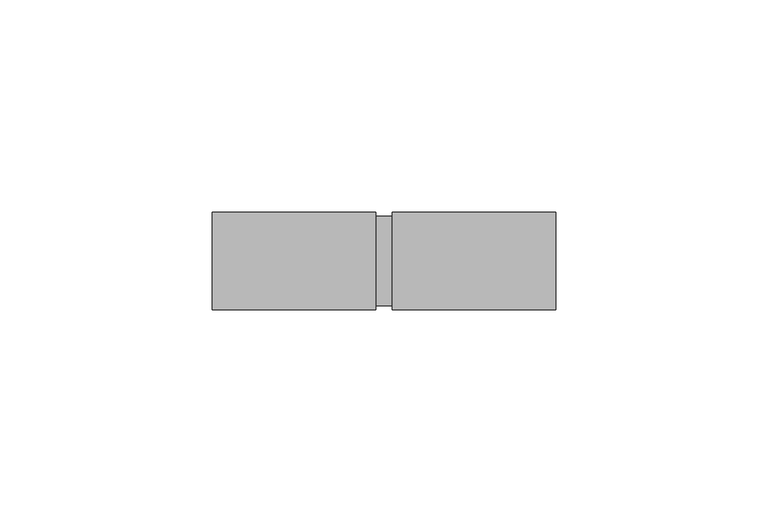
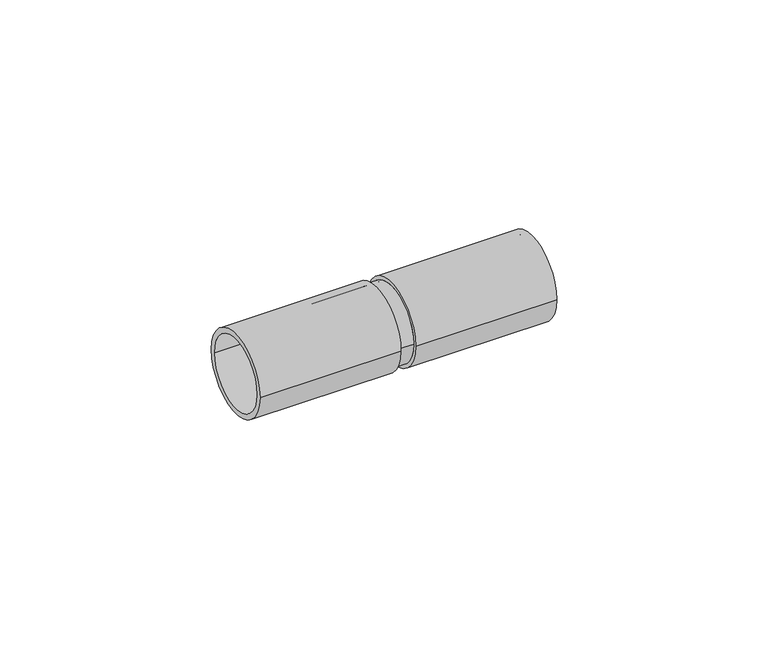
"""IFC4 building model written with IfcOpenShell, lengths in millimetres: cable carrier fitting geometry."""

from ifc_helpers import new_model, si_unit, frame, origin, place, context, project, spatial, polyline, circle_curve, source, transform, mapped, element, save
from ifc_brep_helpers import plane_surface, cylinder_surface, revolved_surface, advanced_brep


def cable_carrier_fitting_e20c0bde(model_context):
    return source(origin(), model_context, "Body", "AdvancedBrep", [
        advanced_brep(
        [(-40.5, -11.5, 0.0), (-40.5, 11.5, 0.0), (-40.5, -10.0, 0.0), (-40.5, 10.0, 0.0), (-2.0, -11.5, 0.0), (-2.0, 11.5, 0.0), (-2.0, -10.5, 0.0), (-2.0, 10.5, 0.0), (-2.0, 10.0, 0.0), (-2.0, -10.0, 0.0), (2.0, -10.0, 0.0), (2.0, 10.0, 0.0), (2.0, -10.5, 0.0), (2.0, 10.5, 0.0), (2.0, -11.5, 0.0), (2.0, 11.5, 0.0), (40.5, -11.5, 0.0), (40.5, 11.5, 0.0), (40.5, -10.0, 0.0), (40.5, 10.0, 0.0)],
        [
            (0, 1, circle_curve(frame((-40.5, 0.0, 0.0), z_axis=(-1.0, 0.0, 0.0), x_axis=(0.0, 1.0, 0.0)), 11.5)),
            (1, 0, circle_curve(frame((-40.5, 0.0, 0.0), z_axis=(-1.0, 0.0, 0.0), x_axis=(0.0, 1.0, 0.0)), 11.5)),
            (2, 3, circle_curve(frame((-40.5, 0.0, 0.0), z_axis=(1.0, 0.0, 0.0), x_axis=(0.0, 1.0, 0.0)), 10.0)),
            (3, 2, circle_curve(frame((-40.5, 0.0, 0.0), z_axis=(1.0, 0.0, 0.0), x_axis=(0.0, 1.0, 0.0)), 10.0)),
            (4, 5, circle_curve(frame((-2.0, 0.0, 0.0), z_axis=(1.0, 0.0, 0.0), x_axis=(0.0, 1.0, 0.0)), 11.5)),
            (5, 4, circle_curve(frame((-2.0, 0.0, 0.0), z_axis=(1.0, 0.0, 0.0), x_axis=(0.0, 1.0, 0.0)), 11.5)),
            (6, 7, circle_curve(frame((-2.0, 0.0, 0.0), z_axis=(-1.0, 0.0, 0.0), x_axis=(0.0, 1.0, 0.0)), 10.5)),
            (7, 6, circle_curve(frame((-2.0, 0.0, 0.0), z_axis=(-1.0, 0.0, 0.0), x_axis=(0.0, 1.0, 0.0)), 10.5)),
            (3, 8),
            (8, 9, circle_curve(frame((-2.0, 0.0, 0.0), z_axis=(1.0, 0.0, 0.0), x_axis=(0.0, 1.0, 0.0)), 10.0)),
            (9, 2),
            (9, 8, circle_curve(frame((-2.0, 0.0, 0.0), z_axis=(1.0, 0.0, 0.0), x_axis=(0.0, 1.0, 0.0)), 10.0)),
            (1, 5),
            (4, 0),
            (9, 10),
            (10, 11, circle_curve(frame((2.0, 0.0, 0.0), z_axis=(1.0, 0.0, 0.0), x_axis=(0.0, 1.0, 0.0)), 10.0)),
            (11, 8),
            (11, 10, circle_curve(frame((2.0, 0.0, 0.0), z_axis=(1.0, 0.0, 0.0), x_axis=(0.0, 1.0, 0.0)), 10.0)),
            (6, 12),
            (12, 13, circle_curve(frame((2.0, 0.0, 0.0), z_axis=(-1.0, 0.0, 0.0), x_axis=(0.0, 1.0, 0.0)), 10.5)),
            (13, 7),
            (13, 12, circle_curve(frame((2.0, 0.0, 0.0), z_axis=(-1.0, 0.0, 0.0), x_axis=(0.0, 1.0, 0.0)), 10.5)),
            (14, 15, circle_curve(frame((2.0, 0.0, 0.0), z_axis=(-1.0, 0.0, 0.0), x_axis=(0.0, 1.0, 0.0)), 11.5)),
            (15, 14, circle_curve(frame((2.0, 0.0, 0.0), z_axis=(-1.0, 0.0, 0.0), x_axis=(0.0, 1.0, 0.0)), 11.5)),
            (16, 17, circle_curve(frame((40.5, 0.0, 0.0), z_axis=(1.0, 0.0, 0.0), x_axis=(0.0, 1.0, 0.0)), 11.5)),
            (17, 16, circle_curve(frame((40.5, 0.0, 0.0), z_axis=(1.0, 0.0, 0.0), x_axis=(0.0, 1.0, 0.0)), 11.5)),
            (18, 19, circle_curve(frame((40.5, 0.0, 0.0), z_axis=(-1.0, 0.0, 0.0), x_axis=(0.0, 1.0, 0.0)), 10.0)),
            (19, 18, circle_curve(frame((40.5, 0.0, 0.0), z_axis=(-1.0, 0.0, 0.0), x_axis=(0.0, 1.0, 0.0)), 10.0)),
            (14, 16),
            (17, 15),
            (19, 11),
            (10, 18),
        ],
        [
            plane_surface(frame((-40.5, 0.0, 0.0), z_axis=(-1.0, 0.0, 0.0), x_axis=(0.0, 0.0, 1.0))),
            plane_surface(frame((-2.0, 0.0, 0.0), z_axis=(1.0, 0.0, 0.0), x_axis=(0.0, 0.0, 1.0))),
            revolved_surface(polyline([(-2.0, 10.0, 0.0), (-40.5, 10.0, 0.0)]), (-40.5, 0.0, 0.0), (1.0, 0.0, 0.0)),
            cylinder_surface(frame((-40.5, 0.0, 0.0), z_axis=(-1.0, 0.0, 0.0), x_axis=(0.0, 1.0, 0.0)), 11.5),
            revolved_surface(polyline([(2.0, 10.0, 0.0), (-2.0, 10.0, 0.0)]), (-2.0, 0.0, 0.0), (1.0, 0.0, 0.0)),
            cylinder_surface(frame((-2.0, 0.0, 0.0), z_axis=(-1.0, 0.0, 0.0), x_axis=(0.0, 1.0, 0.0)), 10.5),
            plane_surface(frame((2.0, 0.0, 0.0), z_axis=(-1.0, 0.0, 0.0), x_axis=(0.0, 0.0, 1.0))),
            plane_surface(frame((40.5, 0.0, 0.0), z_axis=(1.0, 0.0, 0.0), x_axis=(0.0, 0.0, 1.0))),
            cylinder_surface(frame((2.0, 0.0, 0.0), z_axis=(-1.0, 0.0, 0.0), x_axis=(0.0, 1.0, 0.0)), 11.5),
            revolved_surface(polyline([(40.5, 10.0, 0.0), (2.0, 10.0, 0.0)]), (2.0, 0.0, 0.0), (1.0, 0.0, 0.0)),
        ],
        [
            (0, [[1, 2], [3, 4]]),
            (1, [[5, 6], [7, 8]]),
            (2, [[-4, 9, 10, 11]]),
            (2, [[-3, -11, 12, -9]]),
            (3, [[-2, 13, -5, 14]]),
            (3, [[-1, -14, -6, -13]]),
            (4, [[15, 16, 17, -12]]),
            (4, [[-15, -10, -17, 18]]),
            (5, [[19, 20, 21, -7]]),
            (5, [[-19, -8, -21, 22]]),
            (6, [[23, 24], [-20, -22]]),
            (7, [[25, 26], [27, 28]]),
            (8, [[-23, 29, -26, 30]]),
            (8, [[-24, -30, -25, -29]]),
            (9, [[-28, 31, -16, 32]]),
            (9, [[-27, -32, -18, -31]]),
        ],
    ),
    ])


if __name__ == "__main__":
    model = new_model("IFC4")
    model_context = context("Model", 3, world=origin())
    ifc_project = project(units=[si_unit("LENGTHUNIT", "METRE", prefix="MILLI")], contexts=[model_context])
    site = spatial("IfcSite", under=ifc_project)
    building = spatial("IfcBuilding", under=site)
    placement = place(None, origin())
    cable_carrier_fitting_shape = cable_carrier_fitting_e20c0bde(model_context)
    element("IfcCableCarrierFitting", 1, at=placement, inside=building, context=model_context, shape_type="MappedRepresentation", body=[
        mapped(cable_carrier_fitting_shape, transform((0.0, 0.0, 0.0), x_axis=(1.0, 0.0, 0.0), y_axis=(0.0, 1.0, 0.0), z_axis=(0.0, 0.0, 1.0))),
    ])
    save(model, "model.ifc")
